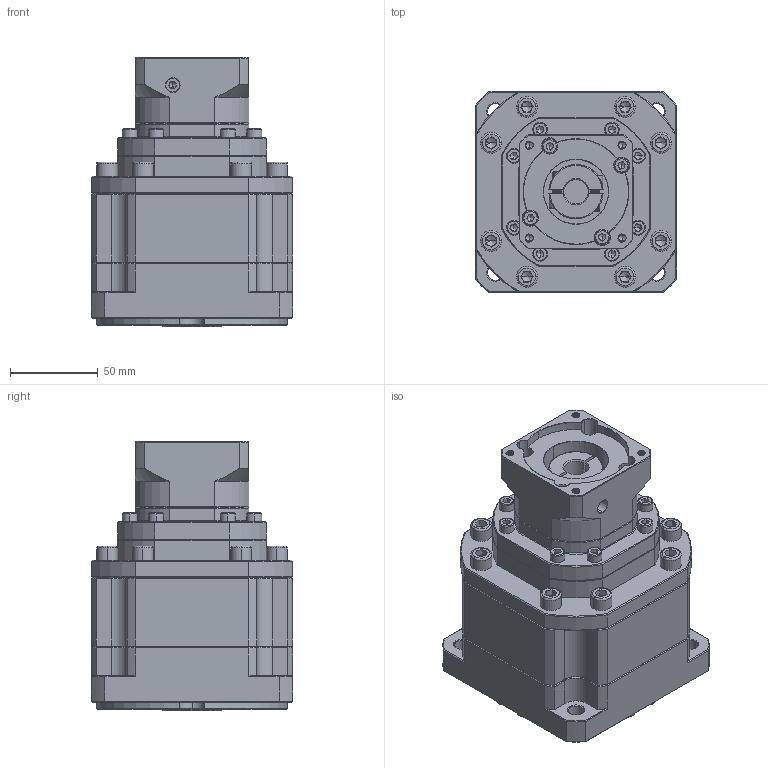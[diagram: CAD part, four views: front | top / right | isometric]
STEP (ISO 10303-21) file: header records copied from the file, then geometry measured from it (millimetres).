
FILE_DESCRIPTION (( 'STEP AP214' ), '1' );
FILE_NAME ('ZB115A-K25-L3-P2-14-60-75-M5.step', '2023-08-26T10:34:48', ( '' ), ( '' ), 'SwSTEP 2.0', 'SolidWorks 2016', '' );
FILE_SCHEMA (( 'AUTOMOTIVE_DESIGN' ));
Length unit declared in the file: millimetre
Products named in the file (1): ZB115A-K25-L3-P2-14-60-75-M5
Bounding box: 115 x 115 x 154 mm (x, y, z)
Volume: 1246387.2 mm3; surface area: 119920.7 mm2
Topology: 7 solids, 7 shells, 2512 faces, 6627 edges, 4225 vertices
Faces by surface type: plane 1299, bspline 434, cylinder 416, cone 341, torus 22
Entity records: 128011 total; most frequent: CARTESIAN_POINT 41585, ORIENTED_EDGE 13134, DIRECTION 10653, EDGE_CURVE 6567, VECTOR 4231, LINE 4231, VERTEX_POINT 4225, AXIS2_PLACEMENT_3D 3211
